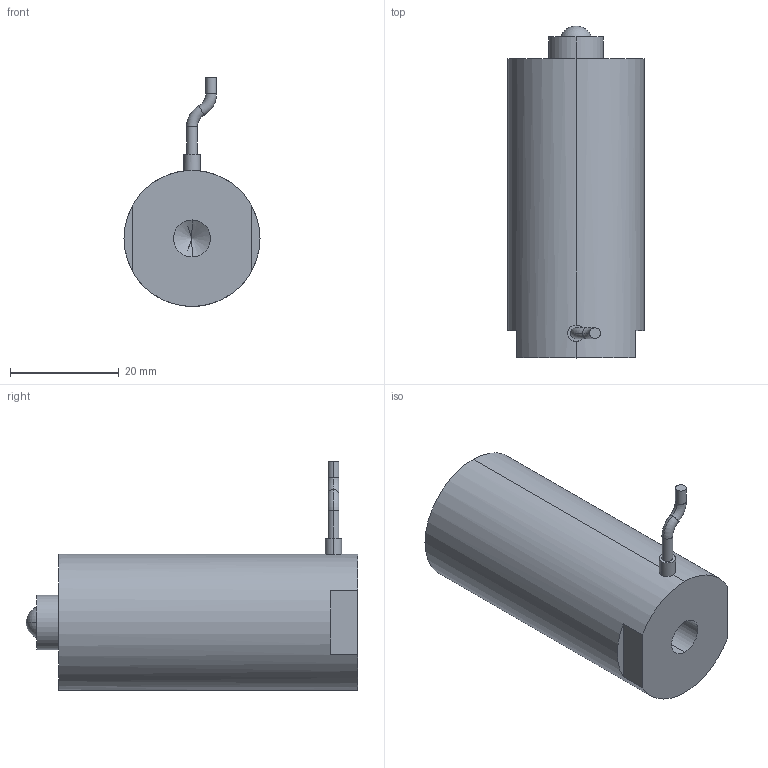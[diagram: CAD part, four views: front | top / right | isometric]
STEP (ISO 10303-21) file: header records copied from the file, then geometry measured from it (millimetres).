
FILE_DESCRIPTION (( 'STEP AP203' ), '1' );
FILE_NAME ('球头式40VS25.STEP', '2021-07-08T07:52:40', ( '微软用户' ), ( '微软公司' ), 'SwSTEP 2.0', 'SolidWorks 2016', '' );
FILE_SCHEMA (( 'CONFIG_CONTROL_DESIGN' ));
Length unit declared in the file: millimetre
Products named in the file (1): ⑩芛宒40VS25
Bounding box: 25 x 61 x 42.06 mm (x, y, z)
Volume: 26875.5 mm3; surface area: 5799.5 mm2
Topology: 1 solids, 1 shells, 936 faces, 2537 edges, 1686 vertices
Faces by surface type: bspline 511, plane 314, cylinder 103, torus 4, sphere 2, cone 2
Entity records: 44090 total; most frequent: CARTESIAN_POINT 25053, ORIENTED_EDGE 5062, EDGE_CURVE 2531, DIRECTION 1966, B_SPLINE_CURVE_WITH_KNOTS 1693, VERTEX_POINT 1684, EDGE_LOOP 1023, ADVANCED_FACE 936
